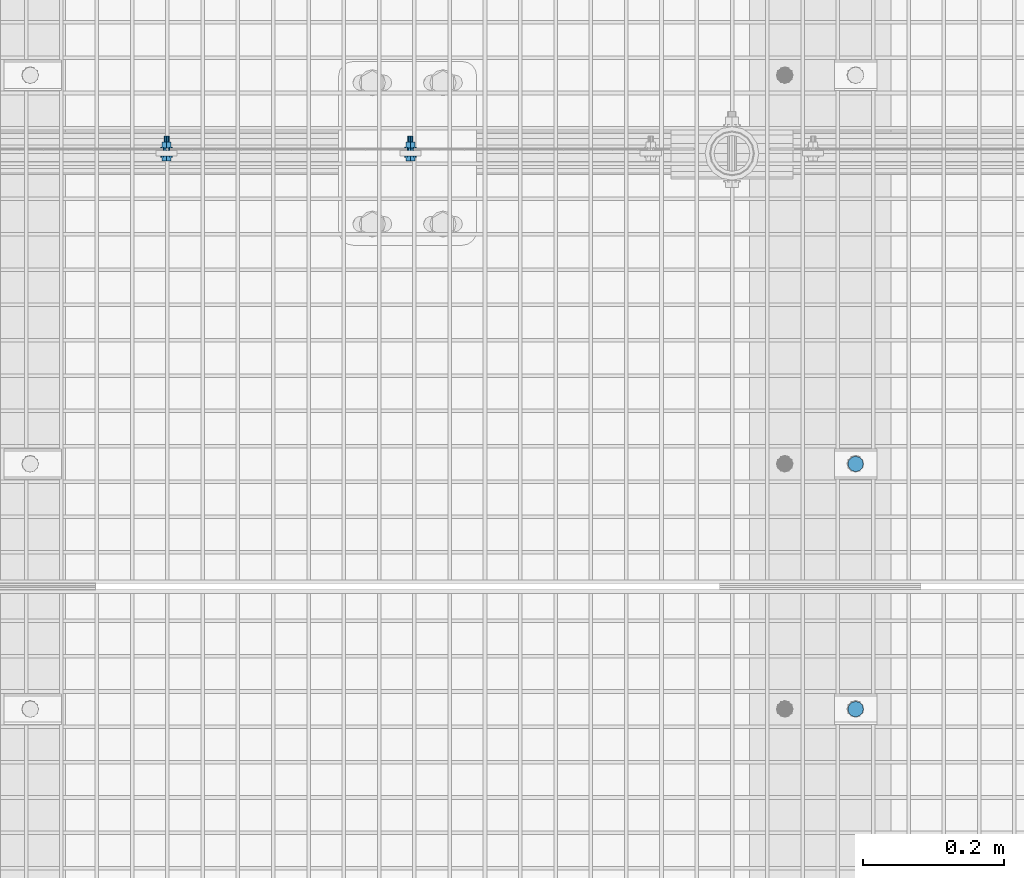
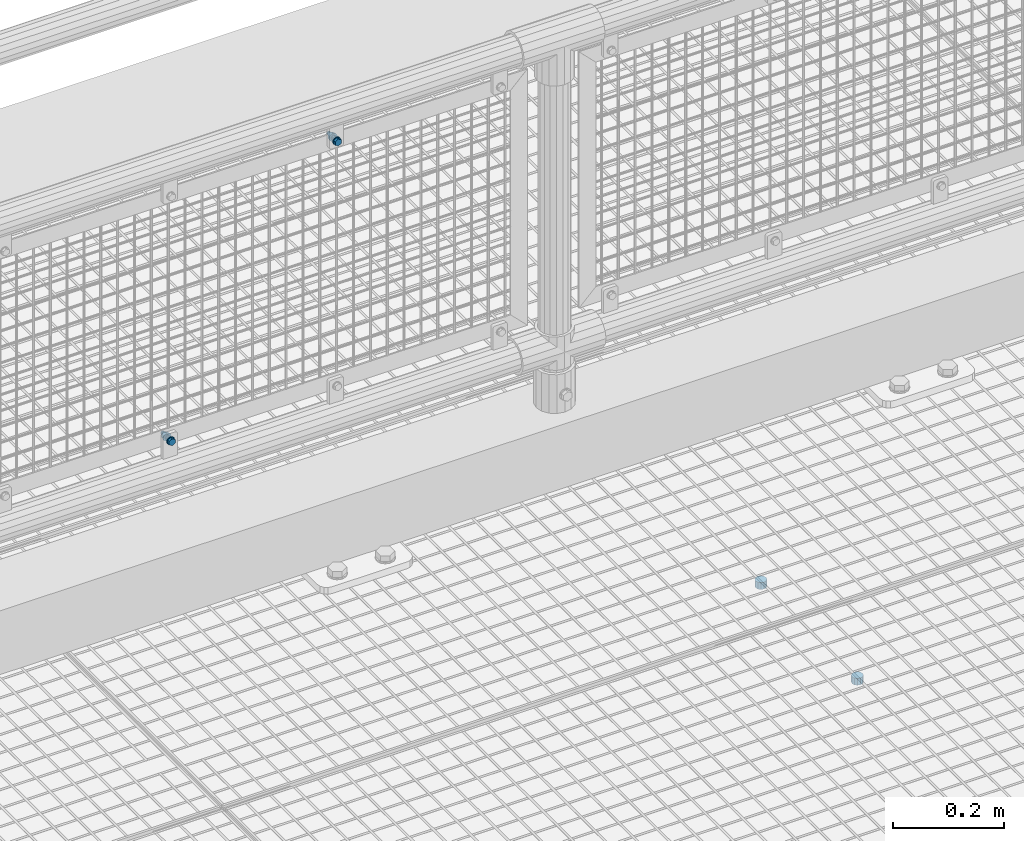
# One storey, part 87 of 1530: 4 mechanical fasteners.
"""IFC2X3 building model written with IfcOpenShell, lengths in millimetres."""

from ifc_helpers import new_model, si_unit, frame, origin_with_axes, place, context, subcontext, project, spatial, faceted_brep, source, transform, mapped, material, type_object, element, save


model = new_model("IFC2X3")

# Units and contexts
model_context = context("Model", 3, precision=1e-05, world=origin_with_axes())
body_context = subcontext(model_context, "Body", "Model", "MODEL_VIEW")
ifc_project = project(units=[si_unit("LENGTHUNIT", "METRE", prefix="MILLI"), si_unit("AREAUNIT", "SQUARE_METRE"), si_unit("VOLUMEUNIT", "CUBIC_METRE"), si_unit("MASSUNIT", "GRAM", prefix="KILO"), si_unit("TIMEUNIT", "SECOND"), si_unit("PLANEANGLEUNIT", "RADIAN"), si_unit("SOLIDANGLEUNIT", "STERADIAN"), si_unit("THERMODYNAMICTEMPERATUREUNIT", "DEGREE_CELSIUS"), si_unit("LUMINOUSINTENSITYUNIT", "LUMEN")], contexts=[model_context])

# Site, building, storey
site_placement = place(None, origin_with_axes())
site = spatial("IfcSite", under=ifc_project, at=site_placement, Name="Brattvåg", CompositionType="ELEMENT")
building_placement = place(site_placement, origin_with_axes())
building = spatial("IfcBuilding", under=site, at=building_placement, Name="Undefined", CompositionType="ELEMENT")
storey_placement = place(building_placement, origin_with_axes())
storey = spatial("IfcBuildingStorey", under=building, at=storey_placement, Name="Undefined", CompositionType="ELEMENT", Elevation=0.0)

# Mechanical fasteners
ifc_material = material(Name="8")
mechanical_fastener_type = type_object("IfcMechanicalFastenerType", Name="Bolt assembly")
shared_shape_1 = source(origin_with_axes(), body_context, "Body", "Brep", [
    faceted_brep([(11.0, -4.99999999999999, 0.0), (9.52627944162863, -4.99999999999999, 5.50000000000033), (5.49999999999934, -4.99999999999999, 9.5262794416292), (-1.13996957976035e-12, -4.99999999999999, 11.0), (-5.50000000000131, -4.99999999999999, 9.52627944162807), (-9.52627944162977, -4.99999999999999, 5.49999999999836), (-11.0, -4.99999999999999, -2.27993915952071e-12), (-9.5262794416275, -4.99999999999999, -5.5000000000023), (-5.49999999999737, -4.99999999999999, -9.52627944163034), (3.40769628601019e-12, -4.99999999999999, -11.0), (5.50000000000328, -4.99999999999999, -9.52627944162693), (9.52627944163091, -4.99999999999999, -5.49999999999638), (9.52627944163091, 10.1, -5.49999999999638), (5.50000000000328, 10.1, -9.52627944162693), (3.40769628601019e-12, 10.1, -11.0), (-5.49999999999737, 10.1, -9.52627944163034), (-9.5262794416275, 10.1, -5.5000000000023), (-11.0, 10.1, -2.27993915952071e-12), (-9.52627944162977, 10.1, 5.49999999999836), (-5.50000000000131, 10.1, 9.52627944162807), (-1.13996957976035e-12, 10.1, 11.0), (5.49999999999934, 10.1, 9.5262794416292), (9.52627944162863, 10.1, 5.50000000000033), (11.0, 10.1, 0.0)], [[[0, 1, 2, 3, 4, 5, 6, 7, 8, 9, 10, 11]], [[12, 13, 14, 15, 16, 17, 18, 19, 20, 21, 22, 23]], [[0, 23, 22, 1]], [[1, 22, 21, 2]], [[2, 21, 20, 3]], [[3, 20, 19, 4]], [[4, 19, 18, 5]], [[5, 18, 17, 6]], [[6, 17, 16, 7]], [[7, 16, 15, 8]], [[8, 15, 14, 9]], [[9, 14, 13, 10]], [[10, 13, 12, 11]], [[11, 12, 23, 0]]]),
])
for number, where, z_axis, x_axis, name in (
    (1, (8796.01192543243, 7224.99, -35.0), (0.0, -1.0, 0.0), (-1.0, 1.99999855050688e-09, 0.0), "Bolt assembly"),
    (2, (8796.01456069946, 6877.99565124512, -35.0), (0.0, -1.0, 0.0), (-1.0, 1.99999855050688e-09, 0.0), "Bolt assembly"),
):
    element("IfcMechanicalFastener", number, at=place(storey_placement, frame(where, z_axis=z_axis, x_axis=x_axis)), inside=storey, type_object=mechanical_fastener_type, material=ifc_material, Name=name, NominalDiameter=20.0, NominalLength=15.0, context=body_context, shape_type="MappedRepresentation", body=[
        mapped(shared_shape_1, transform((0.0, 0.0, 0.0))),
    ])
shared_shape_2 = source(origin_with_axes(), body_context, "Body", "Brep", [
    faceted_brep([(7.50555349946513, -6.90000021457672, 0.0), (3.75277674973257, -6.90000021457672, 6.5), (-3.75277674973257, -6.90000021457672, 6.5), (-7.50555349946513, -6.90000021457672, 9.19165206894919e-16), (-3.75277674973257, -6.90000021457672, -6.5), (3.75277674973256, -6.90000021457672, -6.5), (3.75277674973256, -1.60000002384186, -6.5), (-3.75277674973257, -1.60000002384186, -6.5), (-7.50555349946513, -1.60000002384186, 9.19165206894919e-16), (-3.75277674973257, -1.60000002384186, 6.5), (3.75277674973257, -1.60000002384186, 6.5), (7.50555349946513, -1.60000002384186, 0.0), (4.0, -1.60000002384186, 0.0), (3.46410161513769, -1.60000002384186, 2.00000000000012), (1.99999999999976, -1.60000002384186, 3.46410161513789), (-4.14534392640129e-13, -1.60000002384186, 4.0), (-2.00000000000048, -1.60000002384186, 3.46410161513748), (-3.4641016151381, -1.60000002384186, 1.9999999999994), (-4.0, -1.60000002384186, -8.29068785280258e-13), (-3.46410161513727, -1.60000002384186, -2.00000000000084), (-1.99999999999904, -1.60000002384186, -3.46410161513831), (1.23916228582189e-12, -1.60000002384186, -4.0), (2.00000000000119, -1.60000002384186, -3.46410161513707), (3.46410161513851, -1.60000002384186, -1.99999999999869), (3.46410161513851, 28.3999999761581, -1.99999999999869), (2.00000000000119, 28.3999999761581, -3.46410161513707), (1.23916228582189e-12, 28.3999999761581, -4.0), (-1.99999999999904, 28.3999999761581, -3.46410161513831), (-3.46410161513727, 28.3999999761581, -2.00000000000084), (-4.0, 28.3999999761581, -8.29068785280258e-13), (-3.4641016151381, 28.3999999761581, 1.9999999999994), (-2.00000000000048, 28.3999999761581, 3.46410161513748), (-4.14534392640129e-13, 28.3999999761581, 4.0), (1.99999999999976, 28.3999999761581, 3.46410161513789), (3.46410161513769, 28.3999999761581, 2.00000000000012), (4.0, 28.3999999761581, 0.0), (8.5, -1.60000002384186, 0.0), (7.36121593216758, -1.60000002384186, 4.25000000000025), (4.24999999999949, -1.60000002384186, 7.36121593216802), (-8.80885584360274e-13, -1.60000002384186, 8.5), (-4.25000000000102, -1.60000002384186, 7.36121593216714), (-7.36121593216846, -1.60000002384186, 4.24999999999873), (-8.5, -1.60000002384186, -1.76177116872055e-12), (-7.3612159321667, -1.60000002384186, -4.25000000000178), (-4.24999999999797, -1.60000002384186, -7.3612159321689), (2.63321985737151e-12, -1.60000002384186, -8.5), (4.25000000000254, -1.60000002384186, -7.36121593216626), (7.36121593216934, -1.60000002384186, -4.24999999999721), (7.36121593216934, 0.0, -4.24999999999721), (4.25000000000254, 0.0, -7.36121593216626), (2.63321985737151e-12, 0.0, -8.5), (-4.24999999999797, 0.0, -7.3612159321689), (-7.3612159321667, 0.0, -4.25000000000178), (-8.5, 0.0, -1.76177116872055e-12), (-7.36121593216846, 0.0, 4.24999999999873), (-4.25000000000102, 0.0, 7.36121593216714), (-8.80885584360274e-13, 0.0, 8.5), (4.24999999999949, 0.0, 7.36121593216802), (7.36121593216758, 0.0, 4.25000000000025), (8.5, 0.0, 0.0), (8.5, 11.5015258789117, 0.0), (7.36121593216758, 11.5015258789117, 4.25000000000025), (4.24999999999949, 11.5015258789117, 7.36121593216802), (-8.80885584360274e-13, 11.5015258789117, 8.5), (-4.25000000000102, 11.5015258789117, 7.36121593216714), (-7.36121593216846, 11.5015258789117, 4.24999999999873), (-8.5, 11.5015258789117, -1.76177116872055e-12), (-7.3612159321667, 11.5015258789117, -4.25000000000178), (-4.24999999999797, 11.5015258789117, -7.3612159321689), (2.63321985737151e-12, 11.5015258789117, -8.5), (4.25000000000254, 11.5015258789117, -7.36121593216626), (7.36121593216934, 11.5015258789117, -4.24999999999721), (7.36121593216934, 13.1015259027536, -4.24999999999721), (4.25000000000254, 13.1015259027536, -7.36121593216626), (2.63321985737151e-12, 13.1015259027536, -8.5), (-4.24999999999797, 13.1015259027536, -7.3612159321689), (-7.3612159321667, 13.1015259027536, -4.25000000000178), (-8.5, 13.1015259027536, -1.76177116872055e-12), (-7.36121593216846, 13.1015259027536, 4.24999999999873), (-4.25000000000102, 13.1015259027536, 7.36121593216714), (-8.80885584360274e-13, 13.1015259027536, 8.5), (4.24999999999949, 13.1015259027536, 7.36121593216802), (7.36121593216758, 13.1015259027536, 4.25000000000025), (8.5, 13.1015259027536, 0.0), (7.50555349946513, 13.1015259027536, 0.0), (3.75277674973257, 13.1015259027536, 6.5), (-3.75277674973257, 13.1015259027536, 6.5), (-7.50555349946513, 13.1015259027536, 9.19165206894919e-16), (-3.75277674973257, 13.1015259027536, -6.5), (3.75277674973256, 13.1015259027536, -6.5), (3.75277674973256, 19.9015260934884, -6.5), (-3.75277674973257, 19.9015260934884, -6.5), (-7.50555349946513, 19.9015260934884, 9.19165206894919e-16), (-3.75277674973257, 19.9015260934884, 6.5), (3.75277674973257, 19.9015260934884, 6.5), (7.50555349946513, 19.9015260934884, 0.0)], [[[0, 1, 2, 3, 4, 5]], [[6, 7, 8, 9, 10, 11]], [[0, 11, 10, 1]], [[1, 10, 9, 2]], [[2, 9, 8, 3]], [[3, 8, 7, 4]], [[4, 7, 6, 5]], [[5, 6, 11, 0]], [[12, 13, 14, 15, 16, 17, 18, 19, 20, 21, 22, 23]], [[24, 25, 26, 27, 28, 29, 30, 31, 32, 33, 34, 35]], [[12, 35, 34, 13]], [[13, 34, 33, 14]], [[14, 33, 32, 15]], [[15, 32, 31, 16]], [[16, 31, 30, 17]], [[17, 30, 29, 18]], [[18, 29, 28, 19]], [[19, 28, 27, 20]], [[20, 27, 26, 21]], [[21, 26, 25, 22]], [[22, 25, 24, 23]], [[23, 24, 35, 12]], [[36, 37, 38, 39, 40, 41, 42, 43, 44, 45, 46, 47]], [[48, 49, 50, 51, 52, 53, 54, 55, 56, 57, 58, 59]], [[36, 59, 58, 37]], [[37, 58, 57, 38]], [[38, 57, 56, 39]], [[39, 56, 55, 40]], [[40, 55, 54, 41]], [[41, 54, 53, 42]], [[42, 53, 52, 43]], [[43, 52, 51, 44]], [[44, 51, 50, 45]], [[45, 50, 49, 46]], [[46, 49, 48, 47]], [[47, 48, 59, 36]], [[60, 61, 62, 63, 64, 65, 66, 67, 68, 69, 70, 71]], [[72, 73, 74, 75, 76, 77, 78, 79, 80, 81, 82, 83]], [[60, 83, 82, 61]], [[61, 82, 81, 62]], [[62, 81, 80, 63]], [[63, 80, 79, 64]], [[64, 79, 78, 65]], [[65, 78, 77, 66]], [[66, 77, 76, 67]], [[67, 76, 75, 68]], [[68, 75, 74, 69]], [[69, 74, 73, 70]], [[70, 73, 72, 71]], [[71, 72, 83, 60]], [[84, 85, 86, 87, 88, 89]], [[90, 91, 92, 93, 94, 95]], [[84, 95, 94, 85]], [[85, 94, 93, 86]], [[86, 93, 92, 87]], [[87, 92, 91, 88]], [[88, 91, 90, 89]], [[89, 90, 95, 84]]]),
    faceted_brep([(5.0, 0.1, 0.0), (4.33012701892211, 0.1, 2.50000000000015), (2.4999999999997, 0.1, 4.33012701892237), (-5.18167990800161e-13, 0.1, 5.0), (-2.5000000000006, 0.1, 4.33012701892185), (-4.33012701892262, 0.1, 2.49999999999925), (-5.0, 0.1, -1.03633598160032e-12), (-4.33012701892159, 0.1, -2.50000000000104), (-2.49999999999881, 0.1, -4.33012701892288), (1.54895285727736e-12, 0.1, -5.0), (2.50000000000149, 0.1, -4.33012701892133), (4.33012701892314, 0.1, -2.49999999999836), (4.33012701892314, 8.1, -2.49999999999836), (2.50000000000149, 8.1, -4.33012701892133), (1.54895285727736e-12, 8.1, -5.0), (-2.49999999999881, 8.1, -4.33012701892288), (-4.33012701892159, 8.1, -2.50000000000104), (-5.0, 8.1, -1.03633598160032e-12), (-4.33012701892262, 8.1, 2.49999999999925), (-2.5000000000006, 8.1, 4.33012701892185), (-5.18167990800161e-13, 8.1, 5.0), (2.4999999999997, 8.1, 4.33012701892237), (4.33012701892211, 8.1, 2.50000000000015), (5.0, 8.1, 0.0), (5.0, 8.40152587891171, 0.0), (4.33012701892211, 8.40152587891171, 2.50000000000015), (2.4999999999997, 8.40152587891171, 4.33012701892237), (-5.18167990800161e-13, 8.40152587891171, 5.0), (-2.5000000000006, 8.40152587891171, 4.33012701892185), (-4.33012701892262, 8.40152587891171, 2.49999999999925), (-5.0, 8.40152587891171, -1.03633598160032e-12), (-4.33012701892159, 8.40152587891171, -2.50000000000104), (-2.49999999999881, 8.40152587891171, -4.33012701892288), (1.54895285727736e-12, 8.40152587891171, -5.0), (2.50000000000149, 8.40152587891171, -4.33012701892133), (4.33012701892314, 8.40152587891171, -2.49999999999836), (4.33012701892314, 11.5015258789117, -2.49999999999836), (2.50000000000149, 11.5015258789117, -4.33012701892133), (1.54895285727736e-12, 11.5015258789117, -5.0), (-2.49999999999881, 11.5015258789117, -4.33012701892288), (-4.33012701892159, 11.5015258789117, -2.50000000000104), (-5.0, 11.5015258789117, -1.03633598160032e-12), (-4.33012701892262, 11.5015258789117, 2.49999999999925), (-2.5000000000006, 11.5015258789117, 4.33012701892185), (-5.18167990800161e-13, 11.5015258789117, 5.0), (2.4999999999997, 11.5015258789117, 4.33012701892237), (4.33012701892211, 11.5015258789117, 2.50000000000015), (5.0, 11.5015258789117, 0.0)], [[[0, 1, 2, 3, 4, 5, 6, 7, 8, 9, 10, 11]], [[12, 13, 14, 15, 16, 17, 18, 19, 20, 21, 22, 23]], [[0, 23, 22, 1]], [[1, 22, 21, 2]], [[2, 21, 20, 3]], [[3, 20, 19, 4]], [[4, 19, 18, 5]], [[5, 18, 17, 6]], [[6, 17, 16, 7]], [[7, 16, 15, 8]], [[8, 15, 14, 9]], [[9, 14, 13, 10]], [[10, 13, 12, 11]], [[11, 12, 23, 0]], [[24, 25, 26, 27, 28, 29, 30, 31, 32, 33, 34, 35]], [[36, 37, 38, 39, 40, 41, 42, 43, 44, 45, 46, 47]], [[24, 47, 46, 25]], [[25, 46, 45, 26]], [[26, 45, 44, 27]], [[27, 44, 43, 28]], [[28, 43, 42, 29]], [[29, 42, 41, 30]], [[30, 41, 40, 31]], [[31, 40, 39, 32]], [[32, 39, 38, 33]], [[33, 38, 37, 34]], [[34, 37, 36, 35]], [[35, 36, 47, 24]]]),
])
mechanical_fastener_1_placement = place(storey_placement, frame((8165.85163879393, 7660.49950027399, 889.680069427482), z_axis=(-1.0, 1.99999855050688e-09, 0.0), x_axis=(0.0, 0.0, 1.0)))
element("IfcMechanicalFastener", 3, at=mechanical_fastener_1_placement, inside=storey, type_object=mechanical_fastener_type, material=ifc_material, Name="Bolt assembly", NominalDiameter=8.0, NominalLength=30.0, context=body_context, shape_type="MappedRepresentation", body=[
    mapped(shared_shape_2, transform((0.0, 0.0, 0.0))),
])
shared_shape_3 = source(origin_with_axes(), body_context, "Body", "Brep", [
    faceted_brep([(7.50555349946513, -6.899000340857, 0.0), (3.75277674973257, -6.899000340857, 6.5), (-3.75277674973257, -6.899000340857, 6.5), (-7.50555349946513, -6.899000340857, 9.19165206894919e-16), (-3.75277674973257, -6.899000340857, -6.5), (3.75277674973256, -6.899000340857, -6.5), (3.75277674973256, -1.59900015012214, -6.5), (-3.75277674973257, -1.59900015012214, -6.5), (-7.50555349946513, -1.59900015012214, 9.19165206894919e-16), (-3.75277674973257, -1.59900015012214, 6.5), (3.75277674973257, -1.59900015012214, 6.5), (7.50555349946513, -1.59900015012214, 0.0), (4.0, -1.59900015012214, 0.0), (3.46410161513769, -1.59900015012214, 2.00000000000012), (1.99999999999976, -1.59900015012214, 3.46410161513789), (-4.14534392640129e-13, -1.59900015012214, 4.0), (-2.00000000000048, -1.59900015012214, 3.46410161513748), (-3.4641016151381, -1.59900015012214, 1.9999999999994), (-4.0, -1.59900015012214, -8.29068785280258e-13), (-3.46410161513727, -1.59900015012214, -2.00000000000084), (-1.99999999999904, -1.59900015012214, -3.46410161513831), (1.23916228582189e-12, -1.59900015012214, -4.0), (2.00000000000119, -1.59900015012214, -3.46410161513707), (3.46410161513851, -1.59900015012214, -1.99999999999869), (3.46410161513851, 28.4009998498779, -1.99999999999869), (2.00000000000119, 28.4009998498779, -3.46410161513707), (1.23916228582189e-12, 28.4009998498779, -4.0), (-1.99999999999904, 28.4009998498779, -3.46410161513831), (-3.46410161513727, 28.4009998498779, -2.00000000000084), (-4.0, 28.4009998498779, -8.29068785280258e-13), (-3.4641016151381, 28.4009998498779, 1.9999999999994), (-2.00000000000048, 28.4009998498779, 3.46410161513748), (-4.14534392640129e-13, 28.4009998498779, 4.0), (1.99999999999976, 28.4009998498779, 3.46410161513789), (3.46410161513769, 28.4009998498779, 2.00000000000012), (4.0, 28.4009998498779, 0.0), (8.5, -1.59900015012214, 0.0), (7.36121593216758, -1.59900015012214, 4.25000000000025), (4.24999999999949, -1.59900015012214, 7.36121593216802), (-8.80885584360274e-13, -1.59900015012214, 8.5), (-4.25000000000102, -1.59900015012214, 7.36121593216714), (-7.36121593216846, -1.59900015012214, 4.24999999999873), (-8.5, -1.59900015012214, -1.76177116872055e-12), (-7.3612159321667, -1.59900015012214, -4.25000000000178), (-4.24999999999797, -1.59900015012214, -7.3612159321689), (2.63321985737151e-12, -1.59900015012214, -8.5), (4.25000000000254, -1.59900015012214, -7.36121593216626), (7.36121593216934, -1.59900015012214, -4.24999999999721), (7.36121593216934, 0.000999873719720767, -4.24999999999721), (4.25000000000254, 0.000999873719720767, -7.36121593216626), (2.63321985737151e-12, 0.000999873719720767, -8.5), (-4.24999999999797, 0.000999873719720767, -7.3612159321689), (-7.3612159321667, 0.000999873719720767, -4.25000000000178), (-8.5, 0.000999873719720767, -1.76177116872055e-12), (-7.36121593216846, 0.000999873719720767, 4.24999999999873), (-4.25000000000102, 0.000999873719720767, 7.36121593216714), (-8.80885584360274e-13, 0.000999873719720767, 8.5), (4.24999999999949, 0.000999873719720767, 7.36121593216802), (7.36121593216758, 0.000999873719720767, 4.25000000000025), (8.5, 0.000999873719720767, 0.0), (8.5, 11.5035404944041, 0.0), (7.36121593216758, 11.5035404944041, 4.25000000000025), (4.24999999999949, 11.5035404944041, 7.36121593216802), (-8.80885584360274e-13, 11.5035404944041, 8.5), (-4.25000000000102, 11.5035404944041, 7.36121593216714), (-7.36121593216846, 11.5035404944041, 4.24999999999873), (-8.5, 11.5035404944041, -1.76177116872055e-12), (-7.3612159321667, 11.5035404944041, -4.25000000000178), (-4.24999999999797, 11.5035404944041, -7.3612159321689), (2.63321985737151e-12, 11.5035404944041, -8.5), (4.25000000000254, 11.5035404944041, -7.36121593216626), (7.36121593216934, 11.5035404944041, -4.24999999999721), (7.36121593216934, 13.1035405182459, -4.24999999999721), (4.25000000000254, 13.1035405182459, -7.36121593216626), (2.63321985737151e-12, 13.1035405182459, -8.5), (-4.24999999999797, 13.1035405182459, -7.3612159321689), (-7.3612159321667, 13.1035405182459, -4.25000000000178), (-8.5, 13.1035405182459, -1.76177116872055e-12), (-7.36121593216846, 13.1035405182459, 4.24999999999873), (-4.25000000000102, 13.1035405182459, 7.36121593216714), (-8.80885584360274e-13, 13.1035405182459, 8.5), (4.24999999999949, 13.1035405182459, 7.36121593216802), (7.36121593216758, 13.1035405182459, 4.25000000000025), (8.5, 13.1035405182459, 0.0), (7.50555349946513, 13.1035405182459, 0.0), (3.75277674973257, 13.1035405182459, 6.5), (-3.75277674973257, 13.1035405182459, 6.5), (-7.50555349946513, 13.1035405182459, 9.19165206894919e-16), (-3.75277674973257, 13.1035405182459, -6.5), (3.75277674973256, 13.1035405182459, -6.5), (3.75277674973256, 19.9035407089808, -6.5), (-3.75277674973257, 19.9035407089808, -6.5), (-7.50555349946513, 19.9035407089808, 9.19165206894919e-16), (-3.75277674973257, 19.9035407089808, 6.5), (3.75277674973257, 19.9035407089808, 6.5), (7.50555349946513, 19.9035407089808, 0.0)], [[[0, 1, 2, 3, 4, 5]], [[6, 7, 8, 9, 10, 11]], [[0, 11, 10, 1]], [[1, 10, 9, 2]], [[2, 9, 8, 3]], [[3, 8, 7, 4]], [[4, 7, 6, 5]], [[5, 6, 11, 0]], [[12, 13, 14, 15, 16, 17, 18, 19, 20, 21, 22, 23]], [[24, 25, 26, 27, 28, 29, 30, 31, 32, 33, 34, 35]], [[12, 35, 34, 13]], [[13, 34, 33, 14]], [[14, 33, 32, 15]], [[15, 32, 31, 16]], [[16, 31, 30, 17]], [[17, 30, 29, 18]], [[18, 29, 28, 19]], [[19, 28, 27, 20]], [[20, 27, 26, 21]], [[21, 26, 25, 22]], [[22, 25, 24, 23]], [[23, 24, 35, 12]], [[36, 37, 38, 39, 40, 41, 42, 43, 44, 45, 46, 47]], [[48, 49, 50, 51, 52, 53, 54, 55, 56, 57, 58, 59]], [[36, 59, 58, 37]], [[37, 58, 57, 38]], [[38, 57, 56, 39]], [[39, 56, 55, 40]], [[40, 55, 54, 41]], [[41, 54, 53, 42]], [[42, 53, 52, 43]], [[43, 52, 51, 44]], [[44, 51, 50, 45]], [[45, 50, 49, 46]], [[46, 49, 48, 47]], [[47, 48, 59, 36]], [[60, 61, 62, 63, 64, 65, 66, 67, 68, 69, 70, 71]], [[72, 73, 74, 75, 76, 77, 78, 79, 80, 81, 82, 83]], [[60, 83, 82, 61]], [[61, 82, 81, 62]], [[62, 81, 80, 63]], [[63, 80, 79, 64]], [[64, 79, 78, 65]], [[65, 78, 77, 66]], [[66, 77, 76, 67]], [[67, 76, 75, 68]], [[68, 75, 74, 69]], [[69, 74, 73, 70]], [[70, 73, 72, 71]], [[71, 72, 83, 60]], [[84, 85, 86, 87, 88, 89]], [[90, 91, 92, 93, 94, 95]], [[84, 95, 94, 85]], [[85, 94, 93, 86]], [[86, 93, 92, 87]], [[87, 92, 91, 88]], [[88, 91, 90, 89]], [[89, 90, 95, 84]]]),
    faceted_brep([(5.0, 0.100999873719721, 0.0), (4.33012701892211, 0.100999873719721, 2.50000000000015), (2.4999999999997, 0.100999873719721, 4.33012701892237), (-5.18167990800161e-13, 0.100999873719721, 5.0), (-2.5000000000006, 0.100999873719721, 4.33012701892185), (-4.33012701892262, 0.100999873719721, 2.49999999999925), (-5.0, 0.100999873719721, -1.03633598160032e-12), (-4.33012701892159, 0.100999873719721, -2.50000000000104), (-2.49999999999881, 0.100999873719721, -4.33012701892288), (1.54895285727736e-12, 0.100999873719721, -5.0), (2.50000000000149, 0.100999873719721, -4.33012701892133), (4.33012701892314, 0.100999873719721, -2.49999999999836), (4.33012701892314, 8.10099988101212, -2.49999999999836), (2.50000000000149, 8.10099988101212, -4.33012701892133), (1.54895285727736e-12, 8.10099988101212, -5.0), (-2.49999999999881, 8.10099988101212, -4.33012701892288), (-4.33012701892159, 8.10099988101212, -2.50000000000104), (-5.0, 8.10099988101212, -1.03633598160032e-12), (-4.33012701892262, 8.10099988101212, 2.49999999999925), (-2.5000000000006, 8.10099988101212, 4.33012701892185), (-5.18167990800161e-13, 8.10099988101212, 5.0), (2.4999999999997, 8.10099988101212, 4.33012701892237), (4.33012701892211, 8.10099988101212, 2.50000000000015), (5.0, 8.10099988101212, 0.0), (5.0, 8.40354049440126, 0.0), (4.33012701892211, 8.40354049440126, 2.50000000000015), (2.4999999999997, 8.40354049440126, 4.33012701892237), (-5.18167990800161e-13, 8.40354049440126, 5.0), (-2.5000000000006, 8.40354049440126, 4.33012701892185), (-4.33012701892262, 8.40354049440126, 2.49999999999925), (-5.0, 8.40354049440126, -1.03633598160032e-12), (-4.33012701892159, 8.40354049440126, -2.50000000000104), (-2.49999999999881, 8.40354049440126, -4.33012701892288), (1.54895285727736e-12, 8.40354049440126, -5.0), (2.50000000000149, 8.40354049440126, -4.33012701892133), (4.33012701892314, 8.40354049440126, -2.49999999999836), (4.33012701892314, 11.5035404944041, -2.49999999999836), (2.50000000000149, 11.5035404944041, -4.33012701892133), (1.54895285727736e-12, 11.5035404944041, -5.0), (-2.49999999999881, 11.5035404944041, -4.33012701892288), (-4.33012701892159, 11.5035404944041, -2.50000000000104), (-5.0, 11.5035404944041, -1.03633598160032e-12), (-4.33012701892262, 11.5035404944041, 2.49999999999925), (-2.5000000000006, 11.5035404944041, 4.33012701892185), (-5.18167990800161e-13, 11.5035404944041, 5.0), (2.4999999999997, 11.5035404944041, 4.33012701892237), (4.33012701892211, 11.5035404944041, 2.50000000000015), (5.0, 11.5035404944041, 0.0)], [[[0, 1, 2, 3, 4, 5, 6, 7, 8, 9, 10, 11]], [[12, 13, 14, 15, 16, 17, 18, 19, 20, 21, 22, 23]], [[0, 23, 22, 1]], [[1, 22, 21, 2]], [[2, 21, 20, 3]], [[3, 20, 19, 4]], [[4, 19, 18, 5]], [[5, 18, 17, 6]], [[6, 17, 16, 7]], [[7, 16, 15, 8]], [[8, 15, 14, 9]], [[9, 14, 13, 10]], [[10, 13, 12, 11]], [[11, 12, 23, 0]], [[24, 25, 26, 27, 28, 29, 30, 31, 32, 33, 34, 35]], [[36, 37, 38, 39, 40, 41, 42, 43, 44, 45, 46, 47]], [[24, 47, 46, 25]], [[25, 46, 45, 26]], [[26, 45, 44, 27]], [[27, 44, 43, 28]], [[28, 43, 42, 29]], [[29, 42, 41, 30]], [[30, 41, 40, 31]], [[31, 40, 39, 32]], [[32, 39, 38, 33]], [[33, 38, 37, 34]], [[34, 37, 36, 35]], [[35, 36, 47, 24]]]),
])
mechanical_fastener_2_placement = place(storey_placement, frame((7820.85007476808, 7660.49843978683, 352.299672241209), z_axis=(-1.0, 1.99999855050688e-09, 0.0), x_axis=(0.0, 0.0, 1.0)))
element("IfcMechanicalFastener", 4, at=mechanical_fastener_2_placement, inside=storey, type_object=mechanical_fastener_type, material=ifc_material, Name="Bolt assembly", NominalDiameter=8.0, NominalLength=30.0, context=body_context, shape_type="MappedRepresentation", body=[
    mapped(shared_shape_3, transform((0.0, 0.0, 0.0))),
])

save(model, "model.ifc")
